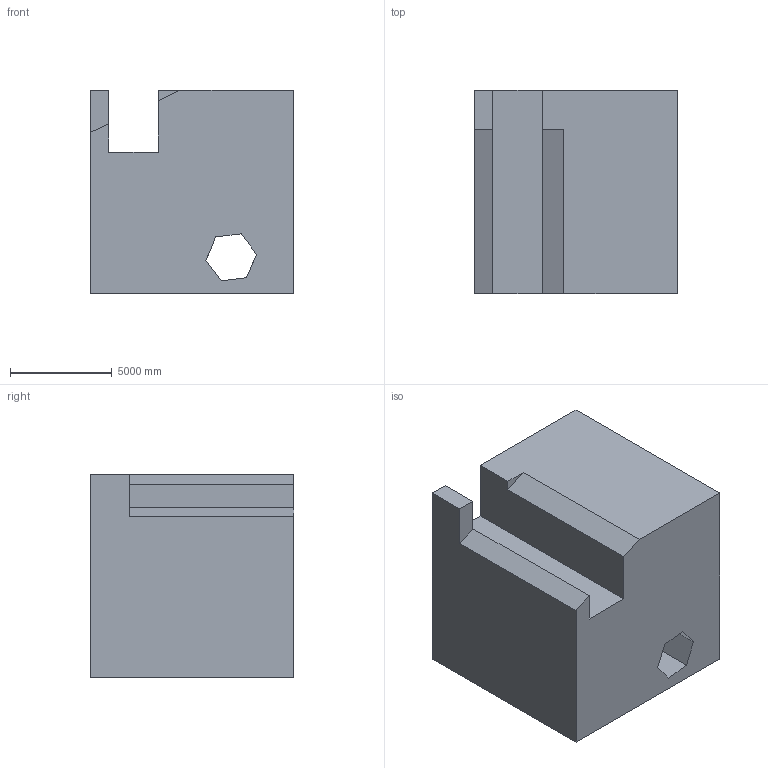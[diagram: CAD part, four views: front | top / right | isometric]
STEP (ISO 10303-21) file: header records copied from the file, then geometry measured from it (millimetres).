
FILE_DESCRIPTION (( 'STEP AP203' ), '1' );
FILE_NAME ('352.STEP', '2022-08-04T14:22:20', ( 'user' ), ( '' ), 'SwSTEP 2.0', 'SolidWorks 2021', '' );
FILE_SCHEMA (( 'CONFIG_CONTROL_DESIGN' ));
Length unit declared in the file: centimetre
Products named in the file (1): 352
Bounding box: 10000 x 10000 x 10000 mm (x, y, z)
Volume: 847796270438.9 mm3; surface area: 684999176.4 mm2
Topology: 1 solids, 1 shells, 24 faces, 69 edges, 46 vertices
Faces by surface type: plane 24
Entity records: 854 total; most frequent: CARTESIAN_POINT 140, ORIENTED_EDGE 138, DIRECTION 119, VECTOR 69, LINE 69, EDGE_CURVE 69, VERTEX_POINT 46, AXIS2_PLACEMENT_3D 25
